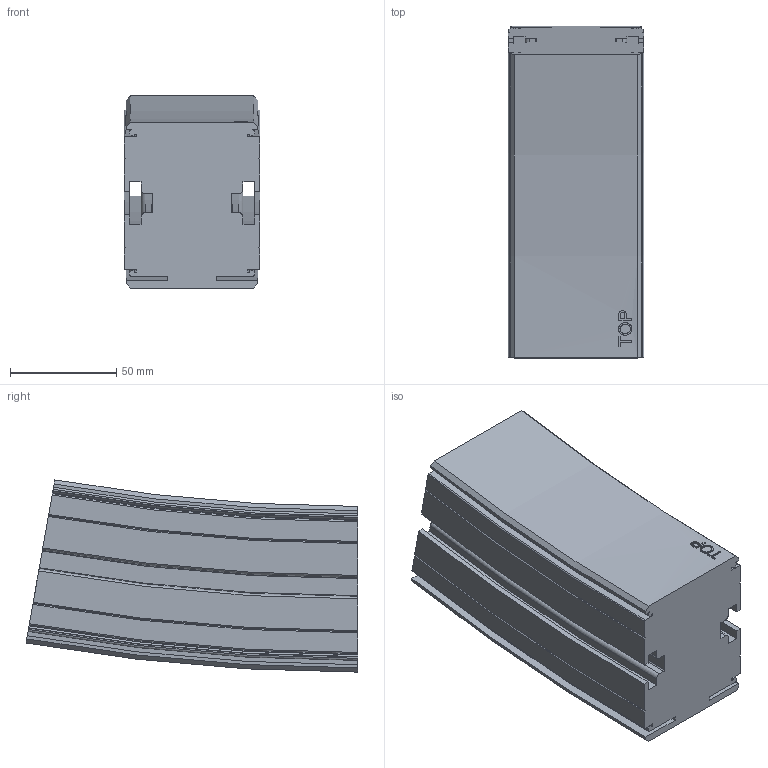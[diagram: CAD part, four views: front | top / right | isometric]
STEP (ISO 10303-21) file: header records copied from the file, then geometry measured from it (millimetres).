
FILE_DESCRIPTION(/* description */ ('VERTIKALKURVA S620 R860'),/* implementation_level */ '2;1');
FILE_NAME(/* name */ '\\carryline.intra\privat\users\mathias\Desktop\Tillfälliga filer\620-5695+620-2000-UPP-01.stp',/* time_stamp */ '2018-12-06T07:26:13+01:00',/* author */ ('MD'),/* organization */ ('CARRYLINE'),/* preprocessor_version */ 'ST-DEVELOPER v17',/* originating_system */ 'Autodesk Inventor 2018',/* authorisation */ '');
FILE_SCHEMA (('AUTOMOTIVE_DESIGN { 1 0 10303 214 3 1 1 }'));
Length unit declared in the file: millimetre
Products named in the file (1): 620-5695+620-2000-UPP-01
Bounding box: 64 x 156.28 x 90.49 mm (x, y, z)
Volume: 670446.7 mm3; surface area: 81557.9 mm2
Topology: 1 solids, 1 shells, 149 faces, 426 edges, 284 vertices
Faces by surface type: plane 54, cylinder 37, torus 28, cone 16, bspline 14
Entity records: 9548 total; most frequent: CARTESIAN_POINT 5528, ORIENTED_EDGE 852, DIRECTION 836, EDGE_CURVE 426, AXIS2_PLACEMENT_3D 315, VERTEX_POINT 284, LINE 206, VECTOR 206
